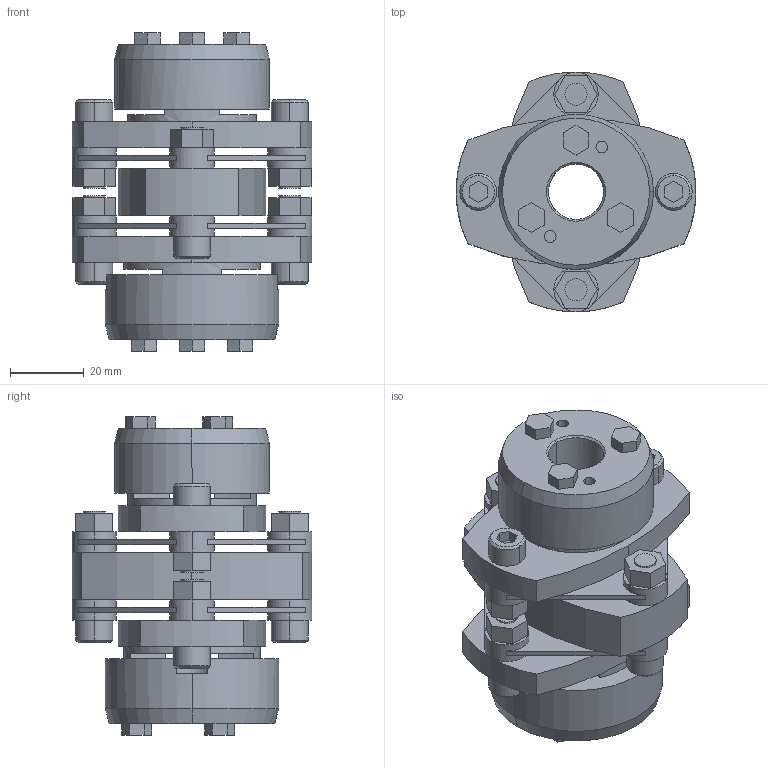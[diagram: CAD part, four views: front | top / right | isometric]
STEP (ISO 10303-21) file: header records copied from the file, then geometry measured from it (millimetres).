
FILE_DESCRIPTION((''),'2;1');
FILE_NAME('LCD-65T7-15×17.stp','2011-08-23T13:40:10',(''),(''),'AutoCAD STEP 2000i','AutoCAD 2000i',', , ');
FILE_SCHEMA(('CONFIG_CONTROL_DESIGN'));
Length unit declared in the file: millimetre
Products named in the file (6): LCD-65T7-15×17; 忣兜1; LC65T7-T017; LC65T7-T015-1; LC65T7-T015; LCD65-ITA
Assembly tree (5 placements, depth 2):
  LCD-65T7-15×17
    忣兜1
    LC65T7-T017
    LC65T7-T015-1
    LC65T7-T015
    LCD65-ITA
Bounding box: 65 x 65 x 86.4 mm (x, y, z)
Volume: 116010.6 mm3; surface area: 40577.6 mm2
Topology: 1 solids, 1 shells, 300 faces, 781 edges, 509 vertices
Faces by surface type: plane 178, cylinder 98, cone 24
Entity records: 9447 total; most frequent: DIRECTION 1678, CARTESIAN_POINT 1596, ORIENTED_EDGE 1562, EDGE_CURVE 781, AXIS2_PLACEMENT_3D 591, VERTEX_POINT 509, VECTOR 496, LINE 496
